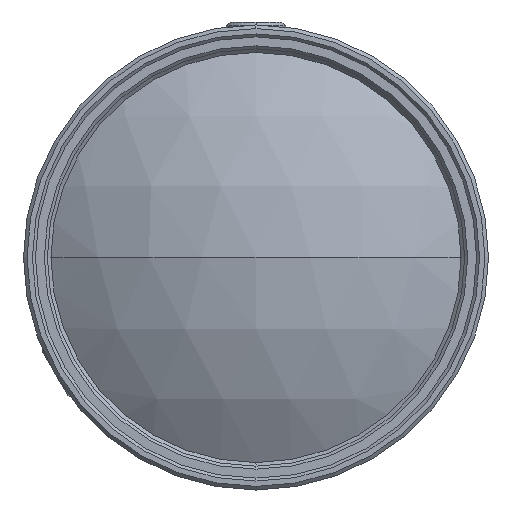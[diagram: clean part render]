
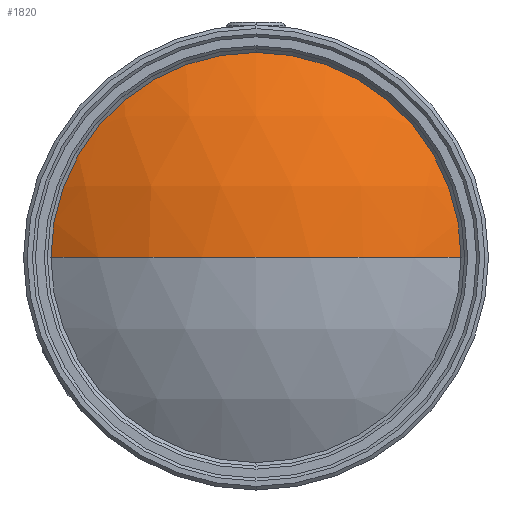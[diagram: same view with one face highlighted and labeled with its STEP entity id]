
A CAD part, left-side view. The second image highlights one B-rep face of the part: STEP entity #1820.
In plain terms, the highlighted spherical face has radius 31.15 mm.
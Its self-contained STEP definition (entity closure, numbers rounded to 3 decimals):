
#48 = ORIENTED_EDGE ( 'NONE', *, *, #1651, .F. ) ;
#51 = CIRCLE ( 'NONE', #3001, 17.2 ) ;
#73 = DIRECTION ( 'NONE',  ( 0., 1., 0. ) ) ;
#107 = FACE_OUTER_BOUND ( 'NONE', #3369, .T. ) ;
#146 = DIRECTION ( 'NONE',  ( 0., -1., 0. ) ) ;
#185 = CIRCLE ( 'NONE', #3552, 31.15 ) ;
#416 = CIRCLE ( 'NONE', #789, 31.15 ) ;
#425 = CARTESIAN_POINT ( 'NONE',  ( -82.55, 0., 0. ) ) ;
#492 = CARTESIAN_POINT ( 'NONE',  ( -77.371, -17.2, 0. ) ) ;
#570 = DIRECTION ( 'NONE',  ( 1., 0., 0. ) ) ;
#653 = DIRECTION ( 'NONE',  ( -1., 0., 0. ) ) ;
#789 = AXIS2_PLACEMENT_3D ( 'NONE', #863, #3240, #653 ) ;
#819 = EDGE_CURVE ( 'NONE', #3218, #872, #51, .T. ) ;
#863 = CARTESIAN_POINT ( 'NONE',  ( -51.4, 0., 0. ) ) ;
#872 = VERTEX_POINT ( 'NONE', #961 ) ;
#940 = ORIENTED_EDGE ( 'NONE', *, *, #819, .F. ) ;
#961 = CARTESIAN_POINT ( 'NONE',  ( -77.371, 0., 17.2 ) ) ;
#1208 = DIRECTION ( 'NONE',  ( 0., 0., 1. ) ) ;
#1495 = VERTEX_POINT ( 'NONE', #492 ) ;
#1651 = EDGE_CURVE ( 'NONE', #872, #1495, #2249, .T. ) ;
#1788 = CARTESIAN_POINT ( 'NONE',  ( -51.4, 0., 0. ) ) ;
#1819 = AXIS2_PLACEMENT_3D ( 'NONE', #1788, #1208, #73 ) ;
#1820 = ADVANCED_FACE ( 'NONE', ( #107 ), #3155, .T. ) ;
#1864 = DIRECTION ( 'NONE',  ( 0., 0., 1. ) ) ;
#1983 = EDGE_CURVE ( 'NONE', #2318, #3218, #416, .T. ) ;
#2094 = CARTESIAN_POINT ( 'NONE',  ( -77.371, 0., 0. ) ) ;
#2249 = CIRCLE ( 'NONE', #3033, 17.2 ) ;
#2280 = CARTESIAN_POINT ( 'NONE',  ( -77.371, 0., 0. ) ) ;
#2318 = VERTEX_POINT ( 'NONE', #425 ) ;
#2482 = ORIENTED_EDGE ( 'NONE', *, *, #1983, .F. ) ;
#2483 = DIRECTION ( 'NONE',  ( 0., 0., -1. ) ) ;
#2574 = DIRECTION ( 'NONE',  ( 0., 0., -1. ) ) ;
#2679 = EDGE_CURVE ( 'NONE', #2318, #1495, #185, .T. ) ;
#2714 = CARTESIAN_POINT ( 'NONE',  ( -77.371, 17.2, 0. ) ) ;
#3001 = AXIS2_PLACEMENT_3D ( 'NONE', #2094, #3278, #2483 ) ;
#3033 = AXIS2_PLACEMENT_3D ( 'NONE', #2280, #570, #2574 ) ;
#3155 = SPHERICAL_SURFACE ( 'NONE', #1819, 31.15 ) ;
#3218 = VERTEX_POINT ( 'NONE', #2714 ) ;
#3240 = DIRECTION ( 'NONE',  ( 0., 0., -1. ) ) ;
#3278 = DIRECTION ( 'NONE',  ( 1., 0., 0. ) ) ;
#3369 = EDGE_LOOP ( 'NONE', ( #2482, #3470, #48, #940 ) ) ;
#3470 = ORIENTED_EDGE ( 'NONE', *, *, #2679, .T. ) ;
#3552 = AXIS2_PLACEMENT_3D ( 'NONE', #3580, #1864, #146 ) ;
#3580 = CARTESIAN_POINT ( 'NONE',  ( -51.4, 0., 0. ) ) ;
